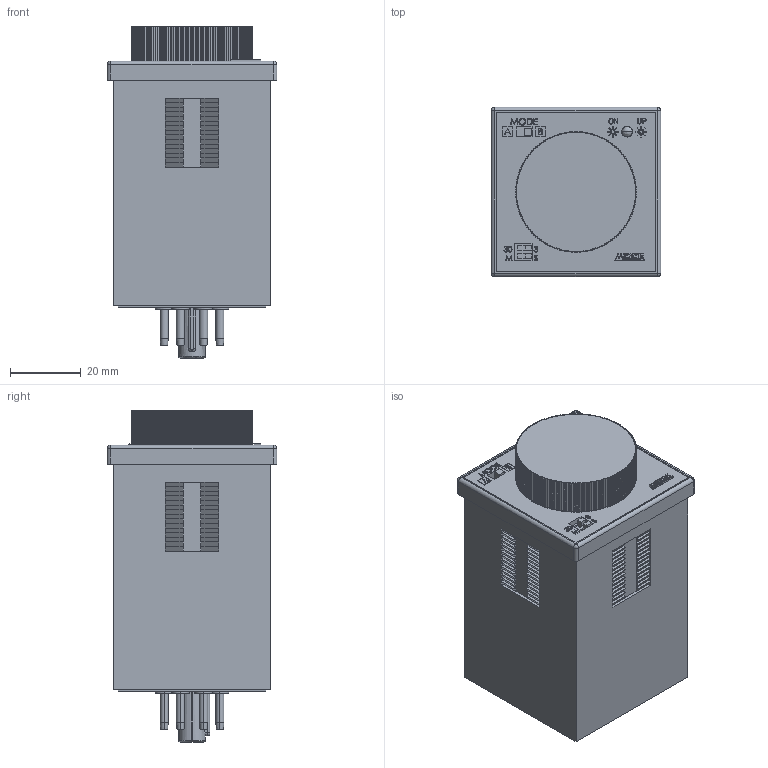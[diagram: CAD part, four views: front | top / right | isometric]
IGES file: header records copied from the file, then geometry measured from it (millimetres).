
Start section: SolidWorks IGES file using analytic representation for surfaces
Global section: file name: D:\X - Arquivos\PROEX\Empresas\P11 - METALTEX\01 - Produtos\IGES\6ª remessa\2ª etapa\TA-8B.IGS; native system: SolidWorks 2012; preprocessor: SolidWorks 2012; author: Usuario; date: 190213.182831; units: millimetre
Bounding box: 47.8 x 47.8 x 93.6 mm (x, y, z)
Surface area: 23859.5 mm2 (no closed solid volume)
Topology: 0 solids, 0 shells, 1882 faces, 16511 edges, 16505 vertices
Faces by surface type: bspline 1353, revolution 529
